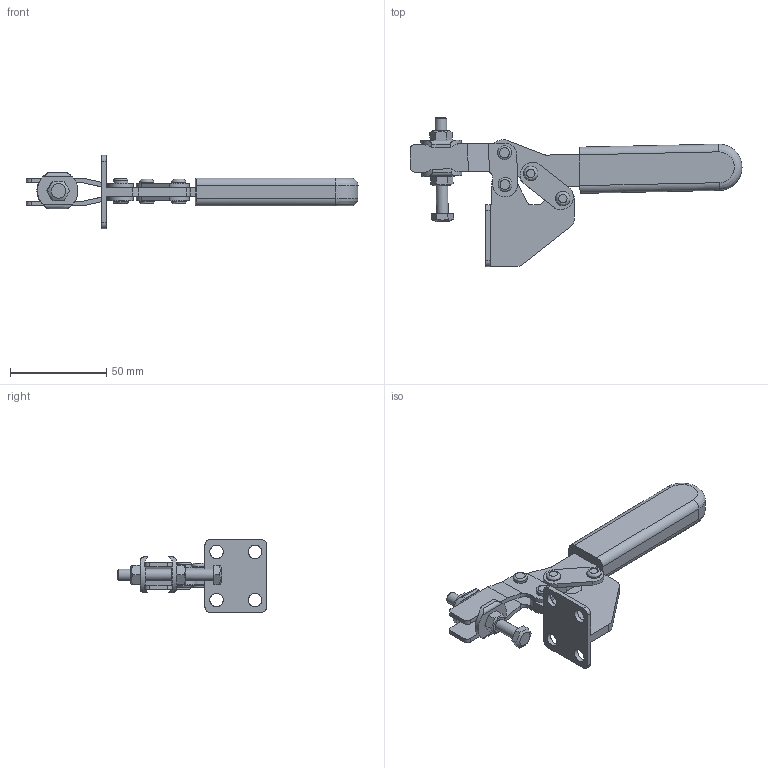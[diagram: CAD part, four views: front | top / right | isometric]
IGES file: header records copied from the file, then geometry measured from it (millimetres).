
Global section: file name: No.38CS(38CS-2S); native system: Autodesk Inventor 2020; preprocessor: unknown; author: y-takahashi; date: 20211201.101646; units: millimetre
Bounding box: 172.28 x 77.45 x 38 mm (x, y, z)
Volume: 49670.9 mm3; surface area: 30134.2 mm2
Topology: 11 solids, 11 shells, 221 faces, 516 edges, 343 vertices
Faces by surface type: bspline 221
